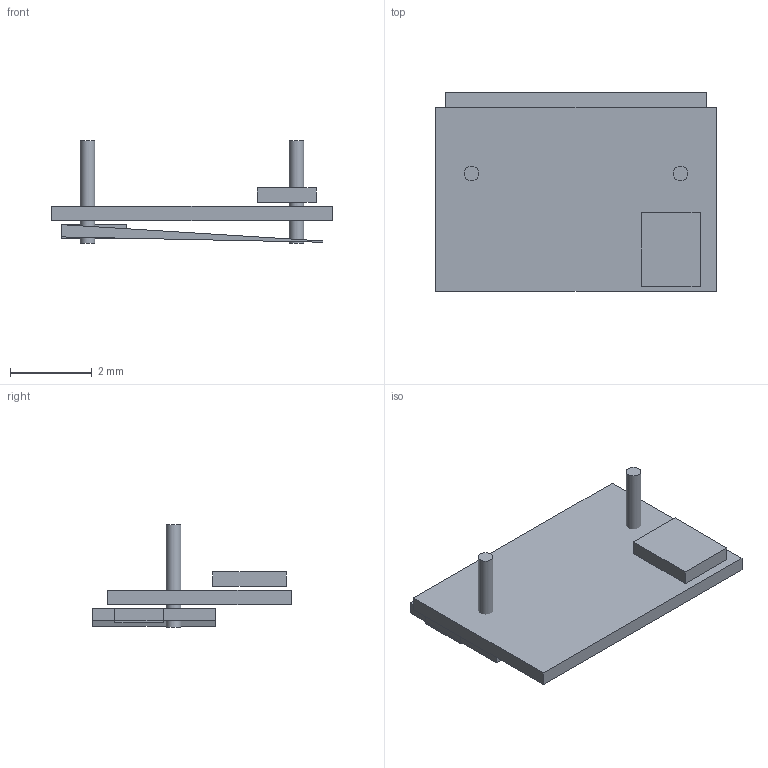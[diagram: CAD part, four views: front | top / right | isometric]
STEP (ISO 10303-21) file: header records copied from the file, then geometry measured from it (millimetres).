
FILE_DESCRIPTION(('ORION SD-SCN-01 Ulichnaya stsena «Rakovina» | OOO ORION | zavod-orion.ru | sales@zavod-orion.ru | tel +7 __________'),'2;1');
FILE_NAME('AutoCAD Shape Model','2026-08-08T22:51:26',('Author'),( 'AutoCAD'),'AutoCAD STEP processor 7.9','AutoCAD 7.9' ,'Unknown');
FILE_SCHEMA(('AUTOMOTIVE_DESIGN { 1 0 10303 214 1 1 1 1 }'));
Length unit declared in the file: millimetre
Products named in the file (7): ORION SD-SCN-01 Ulichnaya stsena «Rakovina»
Assembly tree (6 placements, depth 2):
  ORION SD-SCN-01 Ulichnaya stsena «Rakovina»
    ORION SD-SCN-01 Ulichnaya stsena «Rakovina»
    ORION SD-SCN-01 Ulichnaya stsena «Rakovina»
    ORION SD-SCN-01 Ulichnaya stsena «Rakovina»
    ORION SD-SCN-01 Ulichnaya stsena «Rakovina»
    ORION SD-SCN-01 Ulichnaya stsena «Rakovina»
    ORION SD-SCN-01 Ulichnaya stsena «Rakovina»
Bounding box: 6.88 x 4.86 x 2.5 mm (x, y, z)
Volume: 16.1 mm3; surface area: 130.7 mm2
Topology: 6 solids, 6 shells, 30 faces, 54 edges, 36 vertices
Faces by surface type: plane 28, cylinder 2
Full cylindrical faces by diameter (mm): 0.36 x2
Entity records: 1532 total; most frequent: DIRECTION 240, CARTESIAN_POINT 235, LINE 154, VECTOR 154, ORIENTED_EDGE 108, PCURVE 108, DEFINITIONAL_REPRESENTATION 108, EDGE_CURVE 54
